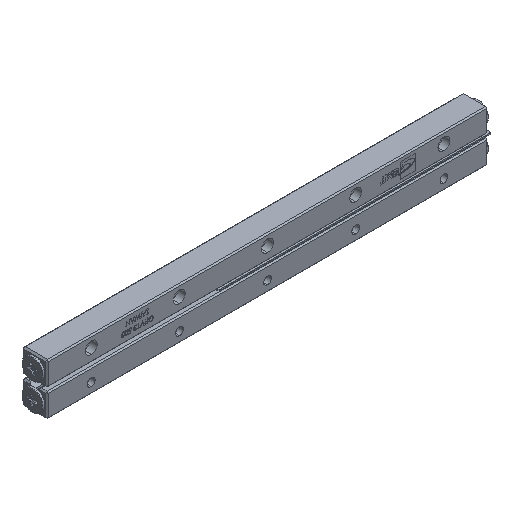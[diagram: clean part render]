
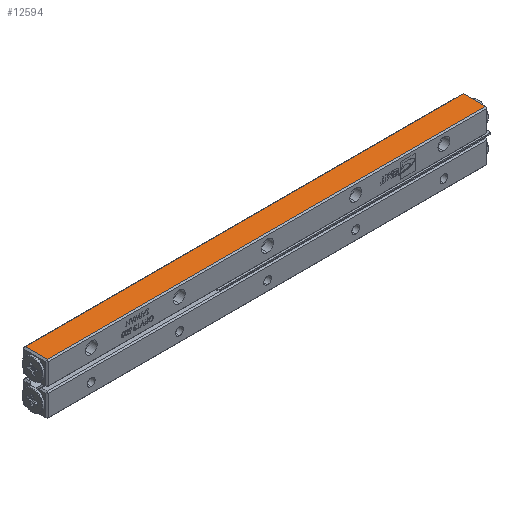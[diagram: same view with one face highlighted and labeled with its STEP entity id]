
A CAD part, isometric view. The second image highlights one B-rep face of the part: STEP entity #12594.
In plain terms, the highlighted planar face has unit normal (0, 0, 1).
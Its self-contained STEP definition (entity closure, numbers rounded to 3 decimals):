
#1491 = VERTEX_POINT ( 'NONE', #14546 ) ;
#1542 = VERTEX_POINT ( 'NONE', #14604 ) ;
#1551 = VERTEX_POINT ( 'NONE', #14560 ) ;
#1920 = VERTEX_POINT ( 'NONE', #14717 ) ;
#3382 = CARTESIAN_POINT ( 'NONE',  ( -250.288, 29.178, 44.55 ) ) ;
#3389 = PLANE ( 'NONE',  #15025 ) ;
#3391 = DIRECTION ( 'NONE',  ( 0., 0., -1. ) ) ;
#3392 = DIRECTION ( 'NONE',  ( 1., 0., 0. ) ) ;
#6616 = CARTESIAN_POINT ( 'NONE',  ( -250.288, 55.678, 44.55 ) ) ;
#6617 = DIRECTION ( 'NONE',  ( -1., 0., 0. ) ) ;
#6621 = CARTESIAN_POINT ( 'NONE',  ( -248.788, 29.178, 44.55 ) ) ;
#6626 = CARTESIAN_POINT ( 'NONE',  ( 249.712, 30.678, 44.55 ) ) ;
#6629 = DIRECTION ( 'NONE',  ( 0., -1., 0. ) ) ;
#6635 = DIRECTION ( 'NONE',  ( 1., 0., 0. ) ) ;
#6636 = CARTESIAN_POINT ( 'NONE',  ( 248.212, 29.178, 44.55 ) ) ;
#8044 = ORIENTED_EDGE ( 'NONE', *, *, #18897, .T. ) ;
#11609 = EDGE_LOOP ( 'NONE', ( #16047, #15983, #16352, #8044 ) ) ;
#12594 = ADVANCED_FACE ( 'NONE', ( #12626 ), #3389, .F. ) ;
#12626 = FACE_OUTER_BOUND ( 'NONE', #11609, .T. ) ;
#13161 = LINE ( 'NONE', #6616, #13163 ) ;
#13162 = LINE ( 'NONE', #6621, #13167 ) ;
#13163 = VECTOR ( 'NONE', #6617, 1000. ) ;
#13164 = LINE ( 'NONE', #6626, #13173 ) ;
#13167 = VECTOR ( 'NONE', #6629, 1000. ) ;
#13172 = LINE ( 'NONE', #6636, #13175 ) ;
#13173 = VECTOR ( 'NONE', #6635, 1000. ) ;
#13175 = VECTOR ( 'NONE', #18130, 1000. ) ;
#14546 = CARTESIAN_POINT ( 'NONE',  ( 248.212, 55.678, 44.55 ) ) ;
#14560 = CARTESIAN_POINT ( 'NONE',  ( -248.788, 30.678, 44.55 ) ) ;
#14604 = CARTESIAN_POINT ( 'NONE',  ( 248.212, 30.678, 44.55 ) ) ;
#14717 = CARTESIAN_POINT ( 'NONE',  ( -248.788, 55.678, 44.55 ) ) ;
#15025 = AXIS2_PLACEMENT_3D ( 'NONE', #3382, #3391, #3392 ) ;
#15983 = ORIENTED_EDGE ( 'NONE', *, *, #18888, .T. ) ;
#16047 = ORIENTED_EDGE ( 'NONE', *, *, #18884, .T. ) ;
#16352 = ORIENTED_EDGE ( 'NONE', *, *, #18895, .T. ) ;
#18130 = DIRECTION ( 'NONE',  ( 0., 1., 0. ) ) ;
#18884 = EDGE_CURVE ( 'NONE', #1491, #1920, #13161, .T. ) ;
#18888 = EDGE_CURVE ( 'NONE', #1920, #1551, #13162, .T. ) ;
#18895 = EDGE_CURVE ( 'NONE', #1551, #1542, #13164, .T. ) ;
#18897 = EDGE_CURVE ( 'NONE', #1542, #1491, #13172, .T. ) ;
